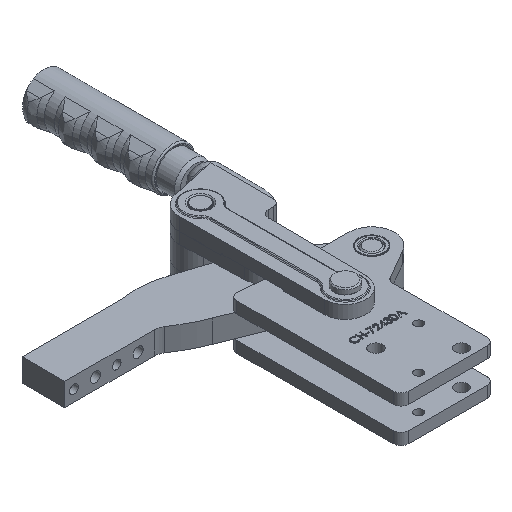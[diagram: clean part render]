
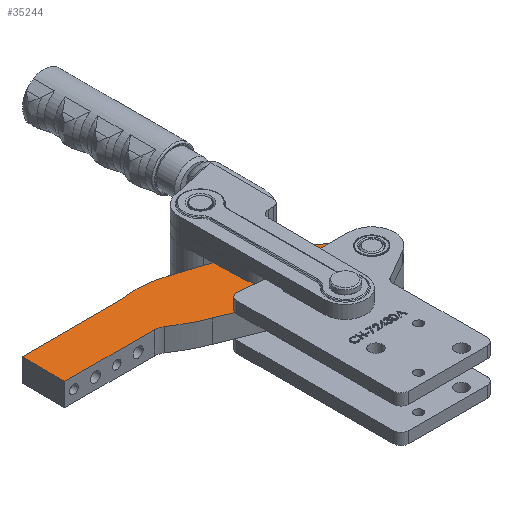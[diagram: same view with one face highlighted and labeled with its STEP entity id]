
A CAD part, isometric view. The second image highlights one B-rep face of the part: STEP entity #35244.
In plain terms, the highlighted planar face has unit normal (0, 0, 1).
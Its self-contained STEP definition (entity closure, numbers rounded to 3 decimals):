
#1146=PLANE('',#38677);
#1811=FACE_BOUND('',#5211,.T.);
#1812=FACE_BOUND('',#5212,.T.);
#3216=FACE_OUTER_BOUND('',#5210,.T.);
#5210=EDGE_LOOP('',(#30365,#30366,#30367,#30368,#30369,#30370,#30371,#30372,
#30373,#30374,#30375));
#5211=EDGE_LOOP('',(#30376,#30377));
#5212=EDGE_LOOP('',(#30378,#30379));
#8034=LINE('',#67049,#11306);
#8038=LINE('',#67061,#11310);
#8042=LINE('',#67073,#11314);
#8046=LINE('',#67085,#11318);
#8049=LINE('',#67091,#11321);
#8051=LINE('',#67094,#11323);
#11306=VECTOR('',#47292,1000.);
#11310=VECTOR('',#47304,1000.);
#11314=VECTOR('',#47316,1000.);
#11318=VECTOR('',#47328,1000.);
#11321=VECTOR('',#47333,1000.);
#11323=VECTOR('',#47337,1000.);
#13633=CIRCLE('',#38647,6.5);
#13636=CIRCLE('',#38650,6.5);
#13637=CIRCLE('',#38652,6.5);
#13640=CIRCLE('',#38655,6.5);
#13642=CIRCLE('',#38658,10.);
#13644=CIRCLE('',#38661,118.);
#13646=CIRCLE('',#38665,16.);
#13648=CIRCLE('',#38669,30.);
#13650=CIRCLE('',#38673,64.053);
#16571=VERTEX_POINT('',#67010);
#16572=VERTEX_POINT('',#67011);
#16575=VERTEX_POINT('',#67020);
#16576=VERTEX_POINT('',#67021);
#16581=VERTEX_POINT('',#67033);
#16582=VERTEX_POINT('',#67035);
#16584=VERTEX_POINT('',#67041);
#16586=VERTEX_POINT('',#67047);
#16588=VERTEX_POINT('',#67053);
#16590=VERTEX_POINT('',#67059);
#16592=VERTEX_POINT('',#67065);
#16594=VERTEX_POINT('',#67071);
#16596=VERTEX_POINT('',#67077);
#16598=VERTEX_POINT('',#67083);
#16600=VERTEX_POINT('',#67089);
#21326=EDGE_CURVE('',#16571,#16572,#13633,.T.);
#21330=EDGE_CURVE('',#16572,#16571,#13636,.T.);
#21331=EDGE_CURVE('',#16575,#16576,#13637,.T.);
#21335=EDGE_CURVE('',#16576,#16575,#13640,.T.);
#21338=EDGE_CURVE('',#16581,#16582,#13642,.T.);
#21342=EDGE_CURVE('',#16581,#16584,#13644,.T.);
#21345=EDGE_CURVE('',#16586,#16584,#8034,.T.);
#21348=EDGE_CURVE('',#16586,#16588,#13646,.T.);
#21351=EDGE_CURVE('',#16590,#16588,#8038,.T.);
#21354=EDGE_CURVE('',#16590,#16592,#13648,.T.);
#21357=EDGE_CURVE('',#16592,#16594,#8042,.T.);
#21360=EDGE_CURVE('',#16594,#16596,#13650,.T.);
#21363=EDGE_CURVE('',#16596,#16598,#8046,.T.);
#21366=EDGE_CURVE('',#16600,#16598,#8049,.T.);
#21368=EDGE_CURVE('',#16582,#16600,#8051,.T.);
#30365=ORIENTED_EDGE('',*,*,#21338,.F.);
#30366=ORIENTED_EDGE('',*,*,#21342,.T.);
#30367=ORIENTED_EDGE('',*,*,#21345,.F.);
#30368=ORIENTED_EDGE('',*,*,#21348,.T.);
#30369=ORIENTED_EDGE('',*,*,#21351,.F.);
#30370=ORIENTED_EDGE('',*,*,#21354,.T.);
#30371=ORIENTED_EDGE('',*,*,#21357,.T.);
#30372=ORIENTED_EDGE('',*,*,#21360,.T.);
#30373=ORIENTED_EDGE('',*,*,#21363,.T.);
#30374=ORIENTED_EDGE('',*,*,#21366,.F.);
#30375=ORIENTED_EDGE('',*,*,#21368,.F.);
#30376=ORIENTED_EDGE('',*,*,#21331,.F.);
#30377=ORIENTED_EDGE('',*,*,#21335,.F.);
#30378=ORIENTED_EDGE('',*,*,#21326,.F.);
#30379=ORIENTED_EDGE('',*,*,#21330,.F.);
#35244=ADVANCED_FACE('',(#3216,#1811,#1812),#1146,.T.);
#38647=AXIS2_PLACEMENT_3D('',#67012,#47253,#47254);
#38650=AXIS2_PLACEMENT_3D('',#67018,#47260,#47261);
#38652=AXIS2_PLACEMENT_3D('',#67022,#47264,#47265);
#38655=AXIS2_PLACEMENT_3D('',#67028,#47271,#47272);
#38658=AXIS2_PLACEMENT_3D('',#67036,#47278,#47279);
#38661=AXIS2_PLACEMENT_3D('',#67043,#47286,#47287);
#38665=AXIS2_PLACEMENT_3D('',#67055,#47298,#47299);
#38669=AXIS2_PLACEMENT_3D('',#67067,#47310,#47311);
#38673=AXIS2_PLACEMENT_3D('',#67079,#47322,#47323);
#38677=AXIS2_PLACEMENT_3D('',#67095,#47338,#47339);
#47253=DIRECTION('center_axis',(0.,0.,1.));
#47254=DIRECTION('ref_axis',(1.,0.,0.));
#47260=DIRECTION('center_axis',(0.,0.,1.));
#47261=DIRECTION('ref_axis',(1.,0.,0.));
#47264=DIRECTION('center_axis',(0.,0.,1.));
#47265=DIRECTION('ref_axis',(1.,0.,0.));
#47271=DIRECTION('center_axis',(0.,0.,1.));
#47272=DIRECTION('ref_axis',(1.,0.,0.));
#47278=DIRECTION('center_axis',(0.,0.,1.));
#47279=DIRECTION('ref_axis',(1.,0.,0.));
#47286=DIRECTION('center_axis',(0.,0.,1.));
#47287=DIRECTION('ref_axis',(1.,0.,0.));
#47292=DIRECTION('',(-0.928,0.372,0.));
#47298=DIRECTION('center_axis',(0.,0.,1.));
#47299=DIRECTION('ref_axis',(1.,0.,0.));
#47304=DIRECTION('',(0.807,-0.591,0.));
#47310=DIRECTION('center_axis',(0.,0.,1.));
#47311=DIRECTION('ref_axis',(1.,0.,0.));
#47316=DIRECTION('',(-0.952,0.306,0.));
#47322=DIRECTION('center_axis',(0.,0.,1.));
#47323=DIRECTION('ref_axis',(1.,0.,0.));
#47328=DIRECTION('',(-1.,0.,0.));
#47333=DIRECTION('',(0.,1.,0.));
#47337=DIRECTION('',(-1.,0.,0.));
#47338=DIRECTION('center_axis',(0.,0.,1.));
#47339=DIRECTION('ref_axis',(1.,0.,0.));
#67010=CARTESIAN_POINT('',(-2375.376,2093.264,16.));
#67011=CARTESIAN_POINT('',(-2362.376,2093.264,16.));
#67012=CARTESIAN_POINT('Origin',(-2368.876,2093.264,16.));
#67018=CARTESIAN_POINT('Origin',(-2368.876,2093.264,16.));
#67020=CARTESIAN_POINT('',(-2417.879,2125.489,16.));
#67021=CARTESIAN_POINT('',(-2404.879,2125.489,16.));
#67022=CARTESIAN_POINT('Origin',(-2411.379,2125.489,16.));
#67028=CARTESIAN_POINT('Origin',(-2411.379,2125.489,16.));
#67033=CARTESIAN_POINT('',(-2482.939,2124.563,16.));
#67035=CARTESIAN_POINT('',(-2488.517,2126.264,16.));
#67036=CARTESIAN_POINT('Origin',(-2488.517,2116.264,16.));
#67041=CARTESIAN_POINT('',(-2460.819,2112.888,16.));
#67043=CARTESIAN_POINT('Origin',(-2417.108,2222.493,16.));
#67047=CARTESIAN_POINT('',(-2374.822,2078.409,16.));
#67049=CARTESIAN_POINT('',(-2395.463,2086.685,16.));
#67053=CARTESIAN_POINT('',(-2359.425,2106.174,16.));
#67055=CARTESIAN_POINT('Origin',(-2368.876,2093.264,16.));
#67059=CARTESIAN_POINT('',(-2400.91,2136.546,16.));
#67061=CARTESIAN_POINT('',(-2345.971,2096.324,16.));
#67065=CARTESIAN_POINT('',(-2407.228,2140.097,16.));
#67067=CARTESIAN_POINT('Origin',(-2418.659,2112.36,16.));
#67071=CARTESIAN_POINT('',(-2450.924,2154.127,16.));
#67073=CARTESIAN_POINT('',(-2390.29,2134.658,16.));
#67077=CARTESIAN_POINT('',(-2481.378,2156.264,16.));
#67079=CARTESIAN_POINT('Origin',(-2470.506,2093.14,16.));
#67083=CARTESIAN_POINT('',(-2551.376,2156.264,16.));
#67085=CARTESIAN_POINT('',(-2446.832,2156.264,16.));
#67089=CARTESIAN_POINT('',(-2551.376,2126.264,16.));
#67091=CARTESIAN_POINT('',(-2551.376,1958.559,16.));
#67094=CARTESIAN_POINT('',(-2446.832,2126.264,16.));
#67095=CARTESIAN_POINT('Origin',(-2446.832,1958.559,16.));
